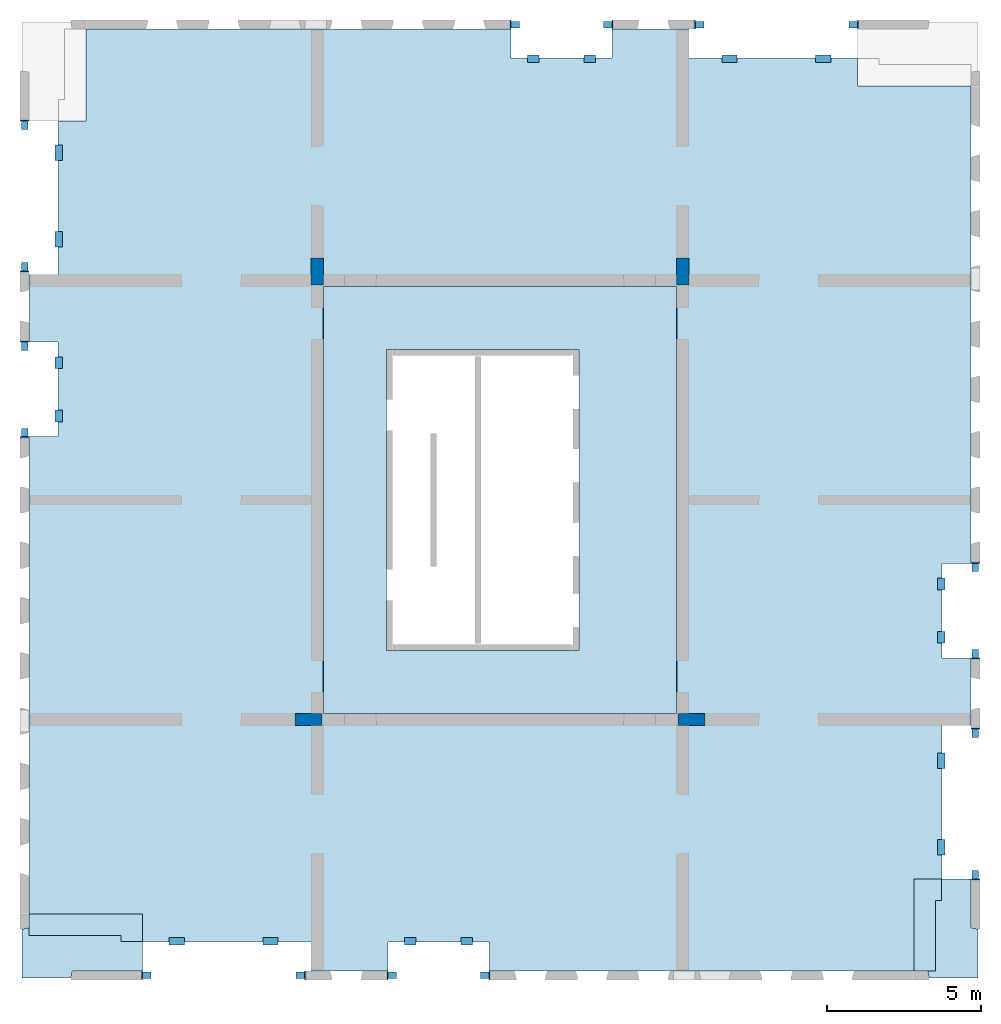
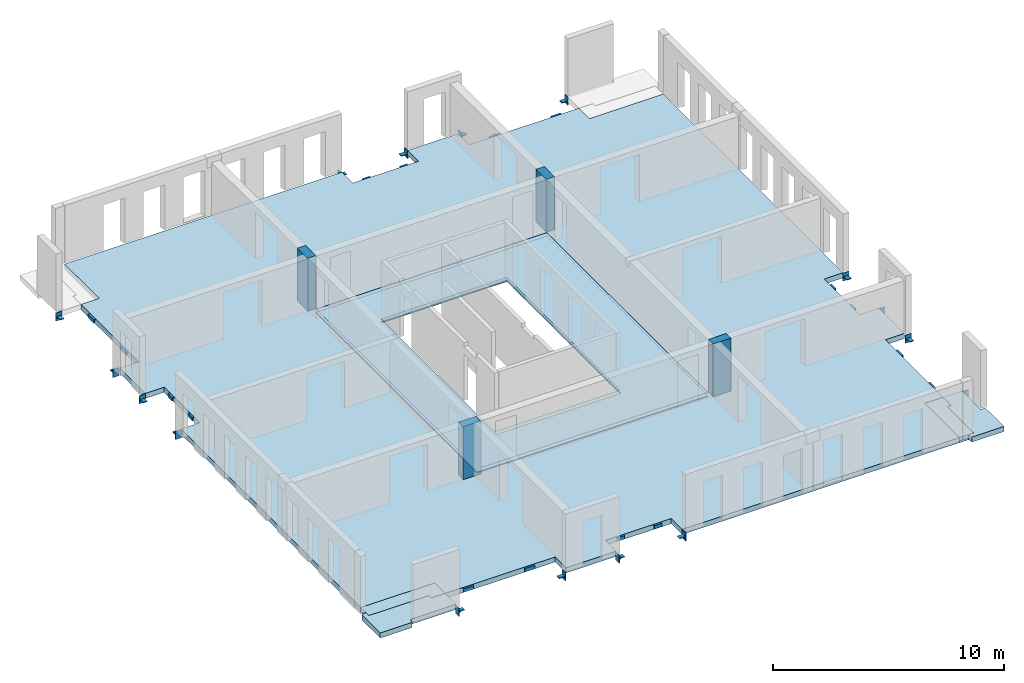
# One storey, part 1 of 4: 32 beams, 7 slabs, 4 columns, 3 openings.
"""IFC2X3 building model written with IfcOpenShell, lengths in millimetres."""

import ifcopenshell
import ifcopenshell.guid

model = None  # the IFC model being written
_history = None  # IfcOwnerHistory: only IFC2X3 demands one
_inside = {}  # id of a spatial element -> (the spatial element, [elements in it])
_under = {}  # id of a project, library or spatial element -> (it, [spatial elements below it])
_declared = {}  # id of a project -> (the project, [libraries it declares])
_typed = {}  # id of a type object -> (the type object, [elements of that type])
_made_of = {}  # id of a material, layer set ... -> (it, [elements and type objects made of it])


def new_model(schema):
    """Start an empty IFC model of exactly this schema.

    Asked for "IFC4X3", IfcOpenShell would pick the latest addendum, in which some entities
    have other attributes; the version numbers below select the first issue.
    IFC2X3 requires an IfcOwnerHistory on every rooted entity: one is made here for all.
    """
    global model, _history
    if schema == "IFC4X3":
        model = ifcopenshell.file(schema_version=(4, 3, 0, 0))
    else:
        model = ifcopenshell.file(schema=schema)
    _inside.clear()
    _under.clear()
    _declared.clear()
    _typed.clear()
    _made_of.clear()
    _history = None
    if model.schema == "IFC2X3":
        org = make("IfcOrganization", Name="unknown")
        user = make(
            "IfcPersonAndOrganization",
            ThePerson=make("IfcPerson", FamilyName="unknown"),
            TheOrganization=org,
        )
        app = make(
            "IfcApplication",
            ApplicationDeveloper=org,
            Version="unknown",
            ApplicationFullName="unknown",
            ApplicationIdentifier="unknown",
        )
        _history = make(
            "IfcOwnerHistory",
            OwningUser=user,
            OwningApplication=app,
            ChangeAction="ADDED",
            CreationDate=0,
        )
    return model


def make(cls, **values):
    """One entity of the class cls with the attributes given. An attribute that is None is left unset."""
    return model.create_entity(
        cls, **{name: value for name, value in values.items() if value is not None}
    )


def entity(cls, *values):
    """Any entity or typed value of the class cls, its attributes in the order of the schema. None: left unset."""
    e = model.create_entity(cls)
    for i, value in enumerate(values):
        if value is not None:
            e[i] = value
    return e


def rooted(cls, **values):
    """An entity with a GlobalId (a new one), such as an element, a storey or a relation."""
    return make(cls, GlobalId=ifcopenshell.guid.new(), OwnerHistory=_history, **values)


def si_unit(unit_type, name, prefix=None):
    """IfcSIUnit, for example si_unit("LENGTHUNIT", "METRE", prefix="MILLI")."""
    return make("IfcSIUnit", UnitType=unit_type, Prefix=prefix, Name=name)


def converted_unit(unit_type, name, factor, base, dimensions=None, offset=None):
    """IfcConversionBasedUnit, such as the inch: factor (a typed value) times the base unit."""
    return make(
        "IfcConversionBasedUnit"
        if offset is None
        else "IfcConversionBasedUnitWithOffset",
        ConversionOffset=offset,
        Dimensions=None
        if dimensions is None
        else entity("IfcDimensionalExponents", *dimensions),
        UnitType=unit_type,
        Name=name,
        ConversionFactor=make(
            "IfcMeasureWithUnit", ValueComponent=factor, UnitComponent=base
        ),
    )


def derived_unit(unit_type, elements):
    """IfcDerivedUnit: a product of units, each with its exponent."""
    return make(
        "IfcDerivedUnit",
        Elements=[
            make("IfcDerivedUnitElement", Unit=unit, Exponent=power)
            for unit, power in elements
        ],
        UnitType=unit_type,
    )


def assignment(units):
    """IfcUnitAssignment: the units of a project."""
    return None if units is None else make("IfcUnitAssignment", Units=units)


def point(xyz):
    """IfcCartesianPoint."""
    return None if xyz is None else make("IfcCartesianPoint", Coordinates=xyz)


def direction(xyz):
    """IfcDirection."""
    return None if xyz is None else make("IfcDirection", DirectionRatios=xyz)


def frame(location, z_axis=None, x_axis=None):
    """IfcAxis2Placement3D, a coordinate frame: its origin and axes. An axis left out is left unset."""
    return make(
        "IfcAxis2Placement3D",
        Location=point(location),
        Axis=direction(z_axis),
        RefDirection=direction(x_axis),
    )


def frame_2d(location, x_axis=None):
    """IfcAxis2Placement2D, a coordinate frame in the plane: its origin and x axis."""
    return make(
        "IfcAxis2Placement2D", Location=point(location), RefDirection=direction(x_axis)
    )


def origin():
    """The frame at (0, 0, 0) with its axes left unset."""
    return frame((0.0, 0.0, 0.0))


def origin_2d_with_axis():
    """The frame at (0, 0) in the plane with the x axis (1, 0) written out."""
    return frame_2d((0.0, 0.0), x_axis=(1.0, 0.0))


def place(relative_to, where):
    """IfcLocalPlacement: puts the frame where relative to a parent placement (None: the world)."""
    return make(
        "IfcLocalPlacement", PlacementRelTo=relative_to, RelativePlacement=where
    )


def context(
    kind, dimensions, precision=None, world=None, true_north=None, identifier=None
):
    """IfcGeometricRepresentationContext, for example the 3D "Model" context."""
    return make(
        "IfcGeometricRepresentationContext",
        ContextIdentifier=identifier,
        ContextType=kind,
        CoordinateSpaceDimension=dimensions,
        Precision=precision,
        WorldCoordinateSystem=world,
        TrueNorth=true_north,
    )


def subcontext(parent, identifier, kind, view, scale=None):
    """IfcGeometricRepresentationSubContext, for example "Body" below "Model"."""
    return make(
        "IfcGeometricRepresentationSubContext",
        ContextIdentifier=identifier,
        ContextType=kind,
        ParentContext=parent,
        TargetScale=scale,
        TargetView=view,
    )


def project(units=None, contexts=None):
    """IfcProject with its units and contexts."""
    return rooted(
        "IfcProject",
        Name="project",
        RepresentationContexts=contexts,
        UnitsInContext=assignment(units),
    )


def spatial(cls, under=None, at=None, **own):
    """A site, building, storey or space (cls), placed at a placement, below another one or the project."""
    s = rooted(cls, ObjectPlacement=at, **own)
    if under is not None:
        _under.setdefault(under.id(), (under, []))[1].append(s)
    return s


def polyline(points):
    """IfcPolyline through the points."""
    return make("IfcPolyline", Points=[point(p) for p in points])


def profile(cls, at=None, kind="AREA", **sizes):
    """A parametric profile (cls). Its sizes go by their IFC names, for example OverallWidth=200.0."""
    return make(cls, ProfileType=kind, Position=at, **sizes)


def rectangle(**sizes):
    """IfcRectangleProfileDef."""
    return profile("IfcRectangleProfileDef", **sizes)


def outline(outer, holes=None, kind="AREA"):
    """IfcArbitraryClosedProfileDef: a profile drawn as a closed curve; with holes, ...WithVoids."""
    if holes is None:
        return make("IfcArbitraryClosedProfileDef", ProfileType=kind, OuterCurve=outer)
    return make(
        "IfcArbitraryProfileDefWithVoids",
        ProfileType=kind,
        OuterCurve=outer,
        InnerCurves=holes,
    )


def extrude(swept, where, along, depth):
    """IfcExtrudedAreaSolid: the profile swept, set in the frame where, extruded along a direction by depth."""
    return make(
        "IfcExtrudedAreaSolid",
        SweptArea=swept,
        Position=where,
        ExtrudedDirection=direction(along),
        Depth=depth,
    )


def shape(context_of_items, identifier, shape_type, items):
    """IfcShapeRepresentation: the items that make up one representation, for example the "Body"."""
    return make(
        "IfcShapeRepresentation",
        ContextOfItems=context_of_items,
        RepresentationIdentifier=identifier,
        RepresentationType=shape_type,
        Items=items,
    )


def source(mapping_origin, context_of_items, identifier, shape_type, items):
    """IfcRepresentationMap: a shape defined once, which mapped items show again and again."""
    return make(
        "IfcRepresentationMap",
        MappingOrigin=mapping_origin,
        MappedRepresentation=shape(context_of_items, identifier, shape_type, items),
    )


def transform(
    local_origin,
    x_axis=None,
    y_axis=None,
    z_axis=None,
    scale=None,
    scale2=None,
    scale3=None,
    uniform=True,
):
    """IfcCartesianTransformationOperator3D, or its non-uniform kind. x_axis, y_axis, z_axis: its Axis1, 2, 3."""
    if uniform:
        return make(
            "IfcCartesianTransformationOperator3D",
            Axis1=direction(x_axis),
            Axis2=direction(y_axis),
            LocalOrigin=point(local_origin),
            Scale=scale,
            Axis3=direction(z_axis),
        )
    return make(
        "IfcCartesianTransformationOperator3DnonUniform",
        Axis1=direction(x_axis),
        Axis2=direction(y_axis),
        LocalOrigin=point(local_origin),
        Scale=scale,
        Axis3=direction(z_axis),
        Scale2=scale2,
        Scale3=scale3,
    )


def mapped(mapping_source, mapping_target):
    """IfcMappedItem: shows the shape of a source again, moved by a transform."""
    return make(
        "IfcMappedItem", MappingSource=mapping_source, MappingTarget=mapping_target
    )


def material(Name=None, Category=None):
    """IfcMaterial."""
    return make("IfcMaterial", Name=Name, Category=Category)


def layer(
    of_material, thickness, ventilated=None, Name=None, Category=None, Priority=None
):
    """IfcMaterialLayer: one layer of a wall or slab, of a material (None: an air gap)."""
    return make(
        "IfcMaterialLayer",
        Material=of_material,
        LayerThickness=thickness,
        IsVentilated=ventilated,
        Name=Name,
        Category=Category,
        Priority=Priority,
    )


def layer_set(layers, Name=None):
    """IfcMaterialLayerSet."""
    return make("IfcMaterialLayerSet", MaterialLayers=layers, LayerSetName=Name)


def layer_usage(for_layer_set, set_direction, sense, offset, extent=None):
    """IfcMaterialLayerSetUsage: how a layer set lies in its element."""
    return make(
        "IfcMaterialLayerSetUsage",
        ForLayerSet=for_layer_set,
        LayerSetDirection=set_direction,
        DirectionSense=sense,
        OffsetFromReferenceLine=offset,
        ReferenceExtent=extent,
    )


def made_of(thing, what):
    """Note that an element or type object is made of a material, layer set ...; save() writes the relation."""
    if what is not None:
        _made_of.setdefault(what.id(), (what, []))[1].append(thing)
    return thing


def type_object(cls, material=None, **own):
    """A type object (cls), such as IfcWallType, which elements share."""
    return made_of(rooted(cls, **own), material)


def type_shapes(of_type, sources):
    """Give a type object the sources (RepresentationMaps) that its elements show as mapped items."""
    of_type.RepresentationMaps = sources


def element(
    cls,
    number,
    at=None,
    inside=None,
    cuts=None,
    type_object=None,
    material=None,
    context=None,
    identifier="Body",
    shape_type=None,
    held_by="IfcProductDefinitionShape",
    body=None,
    shapes=None,
    **own,
):
    """One element of the class cls, such as IfcWall. Its Tag is "e" and its number.

    at: its placement. inside: the storey or other place that contains it. cuts: it is an
    opening in that element (IfcRelVoidsElement). A single representation is given by context,
    identifier, shape_type and body (its items); several are given by shapes. held_by: the class
    of the entity that holds the representations. save() writes the other relations.
    """
    e = rooted(cls, Tag="e%d" % number, ObjectPlacement=at, **own)
    if body is not None:
        shapes = [shape(context, identifier, shape_type, body)]
    if shapes is not None:
        e.Representation = make(held_by, Representations=shapes)
    if inside is not None:
        _inside.setdefault(inside.id(), (inside, []))[1].append(e)
    if cuts is not None:
        rooted(
            "IfcRelVoidsElement", RelatingBuildingElement=cuts, RelatedOpeningElement=e
        )
    if type_object is not None:
        _typed.setdefault(type_object.id(), (type_object, []))[1].append(e)
    return made_of(e, material)


def aggregate(whole, parts):
    """IfcRelAggregates: a whole, such as a stair, and the parts it consists of."""
    return rooted("IfcRelAggregates", RelatingObject=whole, RelatedObjects=parts)


def save(model, path):
    """Write the relations noted so far, then the file.

    IfcRelAggregates (storeys below a building ...), IfcRelContainedInSpatialStructure (elements
    in a storey), IfcRelDefinesByType, IfcRelAssociatesMaterial and IfcRelDeclares: one each for
    every whole, place, type object, material and project.
    """
    for whole, parts in _under.values():
        aggregate(whole, parts)
    for where, things in _inside.values():
        rooted(
            "IfcRelContainedInSpatialStructure",
            RelatedElements=things,
            RelatingStructure=where,
        )
    for kind, things in _typed.values():
        rooted("IfcRelDefinesByType", RelatedObjects=things, RelatingType=kind)
    for what, things in _made_of.values():
        rooted("IfcRelAssociatesMaterial", RelatedObjects=things, RelatingMaterial=what)
    for by, libraries in _declared.values():
        rooted("IfcRelDeclares", RelatingContext=by, RelatedDefinitions=libraries)
    model.write(path)


model = new_model("IFC2X3")

# Units and contexts
model_context = context("Model", 3, precision=0.01, world=origin(), true_north=direction((6.12303176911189e-17, 1.0)))
body_context = subcontext(model_context, "Body", "Model", "MODEL_VIEW")
ifc_project = project(units=[si_unit("LENGTHUNIT", "METRE", prefix="MILLI"), si_unit("AREAUNIT", "SQUARE_METRE"), si_unit("VOLUMEUNIT", "CUBIC_METRE"), converted_unit("PLANEANGLEUNIT", "DEGREE", entity("IfcRatioMeasure", 0.0174532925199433), si_unit("PLANEANGLEUNIT", "RADIAN"), dimensions=[0, 0, 0, 0, 0, 0, 0]), si_unit("MASSUNIT", "GRAM", prefix="KILO"), derived_unit("MASSDENSITYUNIT", [(si_unit("MASSUNIT", "GRAM", prefix="KILO"), 1), (si_unit("LENGTHUNIT", "METRE"), -3)]), si_unit("TIMEUNIT", "SECOND"), si_unit("FREQUENCYUNIT", "HERTZ"), si_unit("THERMODYNAMICTEMPERATUREUNIT", "DEGREE_CELSIUS"), derived_unit("THERMALTRANSMITTANCEUNIT", [(si_unit("MASSUNIT", "GRAM", prefix="KILO"), 1), (si_unit("THERMODYNAMICTEMPERATUREUNIT", "KELVIN"), -1), (si_unit("TIMEUNIT", "SECOND"), -3)]), derived_unit("VOLUMETRICFLOWRATEUNIT", [(si_unit("LENGTHUNIT", "METRE"), 3), (si_unit("TIMEUNIT", "SECOND"), -1)]), si_unit("ELECTRICCURRENTUNIT", "AMPERE"), si_unit("ELECTRICVOLTAGEUNIT", "VOLT"), si_unit("POWERUNIT", "WATT"), si_unit("FORCEUNIT", "NEWTON", prefix="KILO"), si_unit("ILLUMINANCEUNIT", "LUX"), si_unit("LUMINOUSFLUXUNIT", "LUMEN"), si_unit("LUMINOUSINTENSITYUNIT", "CANDELA"), derived_unit("USERDEFINED", [(si_unit("MASSUNIT", "GRAM", prefix="KILO"), -1), (si_unit("LENGTHUNIT", "METRE"), -2), (si_unit("TIMEUNIT", "SECOND"), 3), (si_unit("LUMINOUSFLUXUNIT", "LUMEN"), 1)]), derived_unit("LINEARVELOCITYUNIT", [(si_unit("LENGTHUNIT", "METRE"), 1), (si_unit("TIMEUNIT", "SECOND"), -1)]), si_unit("PRESSUREUNIT", "PASCAL"), derived_unit("USERDEFINED", [(si_unit("LENGTHUNIT", "METRE"), -2), (si_unit("MASSUNIT", "GRAM", prefix="KILO"), 1), (si_unit("TIMEUNIT", "SECOND"), -2)])], contexts=[model_context])

# Site, building, storey
site_placement = place(None, origin())
site = spatial("IfcSite", under=ifc_project, at=site_placement, Name="Default", CompositionType="ELEMENT")
building_placement = place(site_placement, origin())
building = spatial("IfcBuilding", under=site, at=building_placement, Name="niet gebruiken", CompositionType="ELEMENT")
storey_placement = place(building_placement, frame((0.0, 0.0, 94500.0)))
storey = spatial("IfcBuildingStorey", under=building, at=storey_placement, Name="30 dertigste verdieping", CompositionType="ELEMENT", Elevation=94500.0000000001)

# Columns
ifc_material_1 = material(Name="NLRS_f2_beton ihwg")
column_type_1 = type_object("IfcColumnType", Name="400x880", PredefinedType="COLUMN", material=ifc_material_1)
shared_shape_1 = source(origin(), body_context, "Body", "SweptSolid", [
    extrude(rectangle(XDim=879.999999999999, YDim=399.999999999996, at=origin_2d_with_axis()), frame((135800.0, 24940.0, 94410.0), z_axis=(0.0, 0.0, 1.0), x_axis=(0.0, -1.0, 0.0)), (0.0, 0.0, 1.0), 2789.99999999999),
])
type_shapes(column_type_1, [shared_shape_1])
column_1_placement = place(storey_placement, frame((0.0, 0.0, -94500.0)))
element("IfcColumn", 1, at=column_1_placement, inside=storey, type_object=column_type_1, material=ifc_material_1, Name="NLRS_28.11_SCO_TLB_beton kolom ihwg_gen:400x880", ObjectType="400x880", context=body_context, shape_type="MappedRepresentation", body=[
    mapped(shared_shape_1, transform((0.0, 0.0, 0.0), scale=1.0)),
])
column_type_2 = type_object("IfcColumnType", Name="400x880", PredefinedType="COLUMN", material=ifc_material_1)
shared_shape_2 = source(origin(), body_context, "Body", "SweptSolid", [
    extrude(rectangle(XDim=879.999999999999, YDim=399.999999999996, at=origin_2d_with_axis()), frame((147700.0, 24940.0, 94410.0), z_axis=(0.0, 0.0, 1.0), x_axis=(0.0, -1.0, 0.0)), (0.0, 0.0, 1.0), 2789.99999999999),
])
type_shapes(column_type_2, [shared_shape_2])
column_2_placement = place(storey_placement, frame((0.0, 0.0, -94500.0)))
element("IfcColumn", 2, at=column_2_placement, inside=storey, type_object=column_type_2, material=ifc_material_1, Name="NLRS_28.11_SCO_TLB_beton kolom ihwg_gen:400x880", ObjectType="400x880", context=body_context, shape_type="MappedRepresentation", body=[
    mapped(shared_shape_2, transform((0.0, 0.0, 0.0), scale=1.0)),
])
column_type_3 = type_object("IfcColumnType", Name="400x880", PredefinedType="COLUMN", material=ifc_material_1)
shared_shape_3 = source(origin(), body_context, "Body", "SweptSolid", [
    extrude(rectangle(XDim=400.000000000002, YDim=880.000000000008, at=origin_2d_with_axis()), frame((135510.003540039, 10350.0, 94410.0), z_axis=(0.0, 0.0, 1.0), x_axis=(0.0, -1.0, 0.0)), (0.0, 0.0, 1.0), 2789.99999999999),
])
type_shapes(column_type_3, [shared_shape_3])
column_3_placement = place(storey_placement, frame((0.0, 0.0, -94500.0)))
element("IfcColumn", 3, at=column_3_placement, inside=storey, type_object=column_type_3, material=ifc_material_1, Name="NLRS_28.11_SCO_TLB_beton kolom ihwg_gen:400x880", ObjectType="400x880", context=body_context, shape_type="MappedRepresentation", body=[
    mapped(shared_shape_3, transform((0.0, 0.0, 0.0), scale=1.0)),
])
column_type_4 = type_object("IfcColumnType", Name="400x880", PredefinedType="COLUMN", material=ifc_material_1)
shared_shape_4 = source(origin(), body_context, "Body", "SweptSolid", [
    extrude(rectangle(XDim=400.000000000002, YDim=880.000000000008, at=origin_2d_with_axis()), frame((147990.0, 10350.0, 94410.0), z_axis=(0.0, 0.0, 1.0), x_axis=(0.0, -1.0, 0.0)), (0.0, 0.0, 1.0), 2789.99999999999),
])
type_shapes(column_type_4, [shared_shape_4])
column_4_placement = place(storey_placement, frame((0.0, 0.0, -94500.0)))
element("IfcColumn", 4, at=column_4_placement, inside=storey, type_object=column_type_4, material=ifc_material_1, Name="NLRS_28.11_SCO_TLB_beton kolom ihwg_gen:400x880", ObjectType="400x880", context=body_context, shape_type="MappedRepresentation", body=[
    mapped(shared_shape_4, transform((0.0, 0.0, 0.0), scale=1.0)),
])

# Beams
ifc_material_2 = material(Name="NLRS_h2_staal")
beam_type_1 = type_object("IfcBeamType", Name="NLRS_28.11_SF_WPB_stalen schoen 4_gen", PredefinedType="BEAM", material=ifc_material_2)
shared_shape_5 = source(origin(), body_context, "Body", "SweptSolid", [
    extrude(outline(polyline([(-69.4999999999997, -23.0), (8.49999999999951, -23.0), (30.5, -1.0), (30.5000000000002, 47.0), (-69.4999999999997, -23.0)])), frame((-105.0, -109.499999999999, -58.0), z_axis=(1.0, 0.0, 0.0), x_axis=(0.0, -1.0, 0.0)), (0.0, 0.0, 1.0), 35.0),
    extrude(outline(polyline([(-69.4999999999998, -23.0), (8.49999999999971, -23.0), (30.5, -1.0), (30.5000000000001, 47.0), (-69.4999999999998, -23.0)])), frame((70.0, -109.499999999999, -58.0), z_axis=(1.0, 0.0, 0.0), x_axis=(0.0, -1.0, 0.0)), (0.0, 0.0, 1.0), 35.0),
    extrude(rectangle(XDim=300.0, YDim=34.9999999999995, at=origin_2d_with_axis()), frame((0.0, -157.5, -230.0), z_axis=(0.0, 0.0, 1.0), x_axis=(-1.0, 0.0, 0.0)), (0.0, 0.0, 1.0), 420.0),
    extrude(rectangle(XDim=210.000000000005, YDim=274.999999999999, at=origin_2d_with_axis()), frame((0.0, -2.4999999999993, -35.0), z_axis=(0.0, 0.0, 1.0), x_axis=(-1.0, 0.0, 0.0)), (0.0, 0.0, 1.0), 35.0),
])
type_shapes(beam_type_1, [shared_shape_5])
beam_1_placement = place(storey_placement, frame((157230.0, 12500.0, -310.0)))
element("IfcBeam", 5, at=beam_1_placement, inside=storey, type_object=beam_type_1, material=ifc_material_2, Name="NLRS_28.11_SF_WPB_stalen schoen 4_gen:NLRS_28.11_SF_WPB_stalen schoen 4_gen", ObjectType="NLRS_28.11_SF_WPB_stalen schoen 4_gen", context=body_context, shape_type="MappedRepresentation", body=[
    mapped(shared_shape_5, transform((0.0, 0.0, 0.0), scale=1.0)),
])
for number, where, z_axis, x_axis, name in (
    (6, (157230.0, 15300.0, -310.0), (0.0, 0.0, 1.0), (-1.0, 0.0, 0.0), "NLRS_28.11_SF_WPB_stalen schoen 4_gen:NLRS_28.11_SF_WPB_stalen schoen 4_gen"),
    (7, (126270.0, 22500.0, -310.0), (0.0, 0.0, 1.0), (-1.0, 0.0, 0.0), "NLRS_28.11_SF_WPB_stalen schoen 4_gen:NLRS_28.11_SF_WPB_stalen schoen 4_gen"),
):
    element("IfcBeam", number, at=place(storey_placement, frame(where, z_axis=z_axis, x_axis=x_axis)), inside=storey, type_object=beam_type_1, material=ifc_material_2, Name=name, ObjectType="NLRS_28.11_SF_WPB_stalen schoen 4_gen", context=body_context, shape_type="MappedRepresentation", body=[
        mapped(shared_shape_5, transform((0.0, 0.0, 0.0), scale=1.0)),
    ])
beam_2_placement = place(storey_placement, frame((126270.0, 19700.0, -310.0)))
element("IfcBeam", 8, at=beam_2_placement, inside=storey, type_object=beam_type_1, material=ifc_material_2, Name="NLRS_28.11_SF_WPB_stalen schoen 4_gen:NLRS_28.11_SF_WPB_stalen schoen 4_gen", ObjectType="NLRS_28.11_SF_WPB_stalen schoen 4_gen", context=body_context, shape_type="MappedRepresentation", body=[
    mapped(shared_shape_5, transform((0.0, 0.0, 0.0), scale=1.0)),
])
for number, where, z_axis, x_axis, name in (
    (9, (138250.0, 2020.0, -310.0), (0.0, 0.0, 1.0), (0.0, -1.0, 0.0), "NLRS_28.11_SF_WPB_stalen schoen 4_gen:NLRS_28.11_SF_WPB_stalen schoen 4_gen"),
    (10, (141250.0, 2020.0, -310.0), (0.0, 0.0, 1.0), (0.0, 1.0, 0.0), "NLRS_28.11_SF_WPB_stalen schoen 4_gen:NLRS_28.11_SF_WPB_stalen schoen 4_gen"),
    (11, (145250.0, 32980.0, -310.0), (0.0, 0.0, 1.0), (0.0, 1.0, 0.0), "NLRS_28.11_SF_WPB_stalen schoen 4_gen:NLRS_28.11_SF_WPB_stalen schoen 4_gen"),
    (12, (142250.0, 32980.0, -310.0), (0.0, 0.0, 1.0), (0.0, -1.0, 0.0), "NLRS_28.11_SF_WPB_stalen schoen 4_gen:NLRS_28.11_SF_WPB_stalen schoen 4_gen"),
):
    element("IfcBeam", number, at=place(storey_placement, frame(where, z_axis=z_axis, x_axis=x_axis)), inside=storey, type_object=beam_type_1, material=ifc_material_2, Name=name, ObjectType="NLRS_28.11_SF_WPB_stalen schoen 4_gen", context=body_context, shape_type="MappedRepresentation", body=[
        mapped(shared_shape_5, transform((0.0, 0.0, 0.0), scale=1.0)),
    ])
beam_type_2 = type_object("IfcBeamType", Name="NLRS_28.11_SF_WPB_stalen schoen 3_gen", PredefinedType="BEAM", material=ifc_material_2)
shared_shape_6 = source(origin(), body_context, "Body", "SweptSolid", [
    extrude(outline(polyline([(-69.4999999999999, -23.0), (8.49999999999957, -23.0), (30.5000000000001, -1.0), (30.5000000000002, 47.0), (-69.4999999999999, -23.0)])), frame((-105.0, -109.499999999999, -63.0), z_axis=(1.0, 0.0, 0.0), x_axis=(0.0, -1.0, 0.0)), (0.0, 0.0, 1.0), 40.0),
    extrude(outline(polyline([(-69.4999999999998, -23.0), (8.49999999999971, -23.0), (30.5, -1.0), (30.5000000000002, 47.0), (-69.4999999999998, -23.0)])), frame((65.0, -109.499999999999, -63.0), z_axis=(1.0, 0.0, 0.0), x_axis=(0.0, -1.0, 0.0)), (0.0, 0.0, 1.0), 40.0),
    extrude(rectangle(XDim=300.0, YDim=39.9999999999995, at=origin_2d_with_axis()), frame((0.0, -160.0, -230.0), z_axis=(0.0, 0.0, 1.0), x_axis=(-1.0, 0.0, 0.0)), (0.0, 0.0, 1.0), 420.0),
    extrude(rectangle(XDim=210.000000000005, YDim=274.999999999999, at=origin_2d_with_axis()), frame((0.0, -2.49999999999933, -40.0), z_axis=(0.0, 0.0, 1.0), x_axis=(-1.0, 0.0, 0.0)), (0.0, 0.0, 1.0), 39.9999999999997),
])
type_shapes(beam_type_2, [shared_shape_6])
beam_3_placement = place(storey_placement, frame((157230.0, 9900.0, -310.0), z_axis=(0.0, 0.0, 1.0), x_axis=(-1.0, 0.0, 0.0)))
element("IfcBeam", 13, at=beam_3_placement, inside=storey, type_object=beam_type_2, material=ifc_material_2, Name="NLRS_28.11_SF_WPB_stalen schoen 3_gen:NLRS_28.11_SF_WPB_stalen schoen 3_gen", ObjectType="NLRS_28.11_SF_WPB_stalen schoen 3_gen", context=body_context, shape_type="MappedRepresentation", body=[
    mapped(shared_shape_6, transform((0.0, 0.0, 0.0), scale=1.0)),
])
for number, where, name in (
    (14, (157230.0, 5300.0, -310.0), "NLRS_28.11_SF_WPB_stalen schoen 3_gen:NLRS_28.11_SF_WPB_stalen schoen 3_gen"),
    (15, (126270.0, 25100.0, -310.0), "NLRS_28.11_SF_WPB_stalen schoen 3_gen:NLRS_28.11_SF_WPB_stalen schoen 3_gen"),
):
    element("IfcBeam", number, at=place(storey_placement, frame(where)), inside=storey, type_object=beam_type_2, material=ifc_material_2, Name=name, ObjectType="NLRS_28.11_SF_WPB_stalen schoen 3_gen", context=body_context, shape_type="MappedRepresentation", body=[
        mapped(shared_shape_6, transform((0.0, 0.0, 0.0), scale=1.0)),
    ])
for number, where, z_axis, x_axis, name in (
    (16, (126270.0, 29700.0, -310.0), (0.0, 0.0, 1.0), (-1.0, 0.0, 0.0), "NLRS_28.11_SF_WPB_stalen schoen 3_gen:NLRS_28.11_SF_WPB_stalen schoen 3_gen"),
    (17, (135250.0, 2020.0, -310.0), (0.0, 0.0, 1.0), (0.0, 1.0, 0.0), "NLRS_28.11_SF_WPB_stalen schoen 3_gen:NLRS_28.11_SF_WPB_stalen schoen 3_gen"),
    (18, (130250.0, 2020.0, -310.0), (0.0, 0.0, 1.0), (0.0, -1.0, 0.0), "NLRS_28.11_SF_WPB_stalen schoen 3_gen:NLRS_28.11_SF_WPB_stalen schoen 3_gen"),
    (19, (148250.0, 32980.0, -310.0), (0.0, 0.0, 1.0), (0.0, -1.0, 0.0), "NLRS_28.11_SF_WPB_stalen schoen 3_gen:NLRS_28.11_SF_WPB_stalen schoen 3_gen"),
    (20, (153250.0, 32980.0, -310.0), (0.0, 0.0, 1.0), (0.0, 1.0, 0.0), "NLRS_28.11_SF_WPB_stalen schoen 3_gen:NLRS_28.11_SF_WPB_stalen schoen 3_gen"),
):
    element("IfcBeam", number, at=place(storey_placement, frame(where, z_axis=z_axis, x_axis=x_axis)), inside=storey, type_object=beam_type_2, material=ifc_material_2, Name=name, ObjectType="NLRS_28.11_SF_WPB_stalen schoen 3_gen", context=body_context, shape_type="MappedRepresentation", body=[
        mapped(shared_shape_6, transform((0.0, 0.0, 0.0), scale=1.0)),
    ])
beam_type_3 = type_object("IfcBeamType", Name="NLRS_28.11_SF_WPB_stalen handje 7 lang 375_gen:NLRS_28.11_SF_WPB_stalen handje 7_gen", PredefinedType="BEAM")
beam_4_placement = place(storey_placement, frame((156235.125015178, 9255.24886461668, -93.0), z_axis=(0.0, 0.0, 1.0), x_axis=(0.0, -1.0, 0.0)))
element("IfcBeam", 21, at=beam_4_placement, inside=storey, type_object=beam_type_3, material=ifc_material_2, Name="NLRS_28.11_SF_WPB_stalen handje 7 lang 375_gen:NLRS_28.11_SF_WPB_stalen handje 7_gen", ObjectType="NLRS_28.11_SF_WPB_stalen handje 7 lang 375_gen:NLRS_28.11_SF_WPB_stalen handje 7_gen", context=body_context, shape_type="SweptSolid", body=[
    extrude(outline(polyline([(-70.6666666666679, -153.33333333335), (-40.6666666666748, -153.33333333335), (-40.6666666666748, 61.6666666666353), (111.333333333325, 61.6666666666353), (111.333333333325, 91.6666666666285), (-70.6666666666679, 91.6666666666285), (-70.6666666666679, -153.33333333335)])), frame((0.0, -91.6666666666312, -70.6666666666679), z_axis=(1.0, 0.0, 0.0), x_axis=(0.0, 0.0, -1.0)), (0.0, 0.0, 1.0), 500.000000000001),
])
beam_5_placement = place(storey_placement, frame((156235.125015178, 6445.24582437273, -93.0), z_axis=(0.0, 0.0, 1.0), x_axis=(0.0, -1.0, 0.0)))
element("IfcBeam", 22, at=beam_5_placement, inside=storey, type_object=beam_type_3, material=ifc_material_2, Name="NLRS_28.11_SF_WPB_stalen handje 7 lang 375_gen:NLRS_28.11_SF_WPB_stalen handje 7_gen", ObjectType="NLRS_28.11_SF_WPB_stalen handje 7 lang 375_gen:NLRS_28.11_SF_WPB_stalen handje 7_gen", context=body_context, shape_type="SweptSolid", body=[
    extrude(outline(polyline([(-70.6666666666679, -153.33333333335), (-40.6666666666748, -153.33333333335), (-40.6666666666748, 61.6666666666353), (111.333333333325, 61.6666666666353), (111.333333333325, 91.6666666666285), (-70.6666666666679, 91.6666666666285), (-70.6666666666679, -153.33333333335)])), frame((0.0, -91.6666666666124, -70.6666666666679), z_axis=(1.0, 0.0, 0.0), x_axis=(0.0, 0.0, -1.0)), (0.0, 0.0, 1.0), 500.000000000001),
])
beam_6_placement = place(storey_placement, frame((127264.874984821, 25744.7511353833, -93.0), z_axis=(0.0, 0.0, 1.0), x_axis=(0.0, 1.0, 0.0)))
element("IfcBeam", 23, at=beam_6_placement, inside=storey, type_object=beam_type_3, material=ifc_material_2, Name="NLRS_28.11_SF_WPB_stalen handje 7 lang 375_gen:NLRS_28.11_SF_WPB_stalen handje 7_gen", ObjectType="NLRS_28.11_SF_WPB_stalen handje 7 lang 375_gen:NLRS_28.11_SF_WPB_stalen handje 7_gen", context=body_context, shape_type="SweptSolid", body=[
    extrude(outline(polyline([(-70.6666666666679, -153.333333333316), (-40.6666666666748, -153.333333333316), (-40.6666666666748, 61.6666666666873), (111.333333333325, 61.66666666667), (111.333333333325, 91.6666666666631), (-70.6666666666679, 91.6666666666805), (-70.6666666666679, -153.333333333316)])), frame((0.0, -91.6666666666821, -70.6666666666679), z_axis=(1.0, 0.0, 0.0), x_axis=(0.0, 0.0, -1.0)), (0.0, 0.0, 1.0), 500.000000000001),
])
beam_7_placement = place(storey_placement, frame((127264.874984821, 28554.7541756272, -93.0), z_axis=(0.0, 0.0, 1.0), x_axis=(0.0, 1.0, 0.0)))
element("IfcBeam", 24, at=beam_7_placement, inside=storey, type_object=beam_type_3, material=ifc_material_2, Name="NLRS_28.11_SF_WPB_stalen handje 7 lang 375_gen:NLRS_28.11_SF_WPB_stalen handje 7_gen", ObjectType="NLRS_28.11_SF_WPB_stalen handje 7 lang 375_gen:NLRS_28.11_SF_WPB_stalen handje 7_gen", context=body_context, shape_type="SweptSolid", body=[
    extrude(outline(polyline([(-70.6666666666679, -153.333333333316), (-40.6666666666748, -153.333333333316), (-40.6666666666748, 61.6666666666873), (111.333333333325, 61.66666666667), (111.333333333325, 91.6666666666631), (-70.6666666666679, 91.6666666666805), (-70.6666666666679, -153.333333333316)])), frame((0.0, -91.66666666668, -70.6666666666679), z_axis=(1.0, 0.0, 0.0), x_axis=(0.0, 0.0, -1.0)), (0.0, 0.0, 1.0), 500.000000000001),
])
for number, where, z_axis, x_axis, name in (
    (25, (140862.631597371, 3015.23611279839, -93.0), (0.0, 0.0, 1.0), (-1.0, 0.0, 0.0), "NLRS_28.11_SF_WPB_stalen handje 7 lang 375_gen:NLRS_28.11_SF_WPB_stalen handje 7_gen"),
    (26, (139012.628555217, 3015.23611279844, -93.0), (0.0, 0.0, 1.0), (-1.0, 0.0, 0.0), "NLRS_28.11_SF_WPB_stalen handje 7 lang 375_gen:NLRS_28.11_SF_WPB_stalen handje 7_gen"),
):
    element("IfcBeam", number, at=place(storey_placement, frame(where, z_axis=z_axis, x_axis=x_axis)), inside=storey, type_object=beam_type_3, material=ifc_material_2, Name=name, ObjectType="NLRS_28.11_SF_WPB_stalen handje 7 lang 375_gen:NLRS_28.11_SF_WPB_stalen handje 7_gen", context=body_context, shape_type="SweptSolid", body=[
        extrude(outline(polyline([(-70.6666666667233, -153.333333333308), (-40.6666666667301, -153.333333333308), (-40.6666666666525, 61.6666666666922), (111.333333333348, 61.6666666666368), (111.333333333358, 91.6666666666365), (-70.6666666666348, 91.6666666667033), (-70.6666666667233, -153.333333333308)])), frame((0.0, -91.6666666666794, -70.6666666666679), z_axis=(1.0, 0.0, 0.0), x_axis=(0.0, 0.0, -1.0)), (0.0, 0.0, 1.0), 375.000000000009),
    ])
for number, where, z_axis, x_axis, name in (
    (27, (134525.131597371, 3015.23611279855, -93.0), (0.0, 0.0, 1.0), (-1.0, 0.0, 0.0), "NLRS_28.11_SF_WPB_stalen handje 7 lang 375_gen:NLRS_28.11_SF_WPB_stalen handje 7_gen"),
    (28, (131475.128555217, 3015.23611279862, -93.0), (0.0, 0.0, 1.0), (-1.0, 0.0, 0.0), "NLRS_28.11_SF_WPB_stalen handje 7 lang 375_gen:NLRS_28.11_SF_WPB_stalen handje 7_gen"),
):
    element("IfcBeam", number, at=place(storey_placement, frame(where, z_axis=z_axis, x_axis=x_axis)), inside=storey, type_object=beam_type_3, material=ifc_material_2, Name=name, ObjectType="NLRS_28.11_SF_WPB_stalen handje 7 lang 375_gen:NLRS_28.11_SF_WPB_stalen handje 7_gen", context=body_context, shape_type="SweptSolid", body=[
        extrude(outline(polyline([(-70.6666666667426, -153.333333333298), (-40.6666666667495, -153.333333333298), (-40.6666666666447, 61.6666666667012), (111.333333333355, 61.6666666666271), (111.33333333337, 91.6666666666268), (-70.6666666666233, 91.666666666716), (-70.6666666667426, -153.333333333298)])), frame((0.0, -91.6666666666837, -70.6666666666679), z_axis=(1.0, 0.0, 0.0), x_axis=(0.0, 0.0, -1.0)), (0.0, 0.0, 1.0), 500.000000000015),
    ])
for number, where, name in (
    (29, (142637.368402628, 31984.7638872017, -93.0), "NLRS_28.11_SF_WPB_stalen handje 7 lang 375_gen:NLRS_28.11_SF_WPB_stalen handje 7_gen"),
    (30, (144487.371444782, 31984.7638872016, -93.0), "NLRS_28.11_SF_WPB_stalen handje 7 lang 375_gen:NLRS_28.11_SF_WPB_stalen handje 7_gen"),
):
    element("IfcBeam", number, at=place(storey_placement, frame(where)), inside=storey, type_object=beam_type_3, material=ifc_material_2, Name=name, ObjectType="NLRS_28.11_SF_WPB_stalen handje 7 lang 375_gen:NLRS_28.11_SF_WPB_stalen handje 7_gen", context=body_context, shape_type="SweptSolid", body=[
        extrude(outline(polyline([(-70.6666666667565, -153.333333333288), (-40.6666666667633, -153.333333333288), (-40.6666666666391, 61.6666666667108), (111.333333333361, 61.666666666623), (111.333333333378, 91.6666666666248), (-70.666666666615, 91.6666666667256), (-70.6666666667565, -153.333333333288)])), frame((0.0, -91.6666666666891, -70.6666666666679), z_axis=(1.0, 0.0, 0.0), x_axis=(0.0, 0.0, -1.0)), (0.0, 0.0, 1.0), 375.000000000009),
    ])
for number, where, name in (
    (31, (148974.868402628, 31984.7638872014, -93.0), "NLRS_28.11_SF_WPB_stalen handje 7 lang 375_gen:NLRS_28.11_SF_WPB_stalen handje 7_gen"),
    (32, (152024.871444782, 31984.7638872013, -93.0), "NLRS_28.11_SF_WPB_stalen handje 7 lang 375_gen:NLRS_28.11_SF_WPB_stalen handje 7_gen"),
):
    element("IfcBeam", number, at=place(storey_placement, frame(where)), inside=storey, type_object=beam_type_3, material=ifc_material_2, Name=name, ObjectType="NLRS_28.11_SF_WPB_stalen handje 7 lang 375_gen:NLRS_28.11_SF_WPB_stalen handje 7_gen", context=body_context, shape_type="SweptSolid", body=[
        extrude(outline(polyline([(-70.6666666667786, -153.333333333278), (-40.6666666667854, -153.333333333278), (-40.6666666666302, 61.6666666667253), (111.33333333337, 61.6666666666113), (111.333333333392, 91.6666666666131), (-70.6666666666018, 91.6666666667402), (-70.6666666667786, -153.333333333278)])), frame((0.0, -91.6666666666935, -70.6666666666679), z_axis=(1.0, 0.0, 0.0), x_axis=(0.0, 0.0, -1.0)), (0.0, 0.0, 1.0), 500.000000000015),
    ])
beam_8_placement = place(storey_placement, frame((156235.0, 14952.5097115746, -93.0), z_axis=(0.0, 0.0, 1.0), x_axis=(0.0, -1.0, 0.0)))
element("IfcBeam", 33, at=beam_8_placement, inside=storey, type_object=beam_type_3, material=ifc_material_2, Name="NLRS_28.11_SF_WPB_stalen handje 7 lang 375_gen:NLRS_28.11_SF_WPB_stalen handje 7_gen", ObjectType="NLRS_28.11_SF_WPB_stalen handje 7 lang 375_gen:NLRS_28.11_SF_WPB_stalen handje 7_gen", context=body_context, shape_type="SweptSolid", body=[
    extrude(outline(polyline([(-70.6666666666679, -153.333333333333), (-40.6666666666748, -153.333333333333), (-40.6666666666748, 61.66666666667), (111.333333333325, 61.66666666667), (111.333333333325, 91.6666666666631), (-70.6666666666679, 91.6666666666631), (-70.6666666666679, -153.333333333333)])), frame((0.0, -91.6666666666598, -70.6666666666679), z_axis=(1.0, 0.0, 0.0), x_axis=(0.0, 0.0, -1.0)), (0.0, 0.0, 1.0), 375.000000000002),
])
beam_9_placement = place(storey_placement, frame((156235.0, 13222.5097115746, -93.0), z_axis=(0.0, 0.0, 1.0), x_axis=(0.0, -1.0, 0.0)))
element("IfcBeam", 34, at=beam_9_placement, inside=storey, type_object=beam_type_3, material=ifc_material_2, Name="NLRS_28.11_SF_WPB_stalen handje 7 lang 375_gen:NLRS_28.11_SF_WPB_stalen handje 7_gen", ObjectType="NLRS_28.11_SF_WPB_stalen handje 7 lang 375_gen:NLRS_28.11_SF_WPB_stalen handje 7_gen", context=body_context, shape_type="SweptSolid", body=[
    extrude(outline(polyline([(-70.6666666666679, -153.333333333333), (-40.6666666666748, -153.333333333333), (-40.6666666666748, 61.66666666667), (111.333333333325, 61.66666666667), (111.333333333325, 91.6666666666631), (-70.6666666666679, 91.6666666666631), (-70.6666666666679, -153.333333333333)])), frame((0.0, -91.6666666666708, -70.6666666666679), z_axis=(1.0, 0.0, 0.0), x_axis=(0.0, 0.0, -1.0)), (0.0, 0.0, 1.0), 375.000000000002),
])
beam_10_placement = place(storey_placement, frame((127265.0, 20047.4902884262, -93.0), z_axis=(0.0, 0.0, 1.0), x_axis=(0.0, 1.0, 0.0)))
element("IfcBeam", 35, at=beam_10_placement, inside=storey, type_object=beam_type_3, material=ifc_material_2, Name="NLRS_28.11_SF_WPB_stalen handje 7 lang 375_gen:NLRS_28.11_SF_WPB_stalen handje 7_gen", ObjectType="NLRS_28.11_SF_WPB_stalen handje 7 lang 375_gen:NLRS_28.11_SF_WPB_stalen handje 7_gen", context=body_context, shape_type="SweptSolid", body=[
    extrude(outline(polyline([(-70.6666666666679, -153.333333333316), (-40.6666666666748, -153.333333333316), (-40.6666666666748, 61.6666666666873), (111.333333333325, 61.66666666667), (111.333333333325, 91.6666666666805), (-70.6666666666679, 91.6666666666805), (-70.6666666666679, -153.333333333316)])), frame((0.0, -91.6666666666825, -70.6666666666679), z_axis=(1.0, 0.0, 0.0), x_axis=(0.0, 0.0, -1.0)), (0.0, 0.0, 1.0), 375.000000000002),
])
beam_11_placement = place(storey_placement, frame((127265.0, 21777.4902884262, -93.0), z_axis=(0.0, 0.0, 1.0), x_axis=(0.0, 1.0, 0.0)))
element("IfcBeam", 36, at=beam_11_placement, inside=storey, type_object=beam_type_3, material=ifc_material_2, Name="NLRS_28.11_SF_WPB_stalen handje 7 lang 375_gen:NLRS_28.11_SF_WPB_stalen handje 7_gen", ObjectType="NLRS_28.11_SF_WPB_stalen handje 7 lang 375_gen:NLRS_28.11_SF_WPB_stalen handje 7_gen", context=body_context, shape_type="SweptSolid", body=[
    extrude(outline(polyline([(-70.6666666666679, -153.33333333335), (-40.6666666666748, -153.33333333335), (-40.6666666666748, 61.6666666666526), (111.333333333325, 61.6666666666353), (111.333333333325, 91.6666666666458), (-70.6666666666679, 91.6666666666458), (-70.6666666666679, -153.33333333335)])), frame((0.0, -91.6666666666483, -70.6666666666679), z_axis=(1.0, 0.0, 0.0), x_axis=(0.0, 0.0, -1.0)), (0.0, 0.0, 1.0), 375.000000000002),
])

# Slabs
ifc_material_3 = material(Name="NLRS_f2_beton prefab")
ifc_layer_1 = layer(ifc_material_3, 270.0)
ifc_layer_set_1 = layer_set([ifc_layer_1], Name="Floor:NLRS_23.22_FL_beton prefab d=270 3D element_gen")
ifc_layer_usage_1 = layer_usage(ifc_layer_set_1, "AXIS3", "POSITIVE", 0.0)
slab_1_placement = place(storey_placement, origin())
element("IfcSlab", 37, at=slab_1_placement, inside=storey, material=ifc_layer_usage_1, Name="Floor:NLRS_23.22_FL_beton prefab d=270 3D element_gen", ObjectType="Floor:NLRS_23.22_FL_beton prefab d=270 3D element_gen", PredefinedType="LANDING", context=body_context, shape_type="SweptSolid", body=[
    extrude(outline(polyline([(-1034.47139498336, -1100.52860501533), (1955.52860501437, -1100.52860501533), (1955.52860501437, 749.471394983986), (370.152429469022, 749.471394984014), (322.675940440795, 982.471394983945), (-1267.47139498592, 982.471394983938), (-1267.47139498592, -607.675940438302), (-1034.47139498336, -655.152429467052), (-1034.47139498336, -1100.52860501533)])), frame((156330.528605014, 3204.47139498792, -90.0), z_axis=(0.0, 0.0, -1.0), x_axis=(0.0, 1.0, 0.0)), (0.0, 0.0, 1.0), 270.000000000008),
])
ifc_layer_2 = layer(ifc_material_1, 170.0)
ifc_layer_set_2 = layer_set([ifc_layer_2], Name="Floor:NLRS_23.21_FL_beton ihwg d=170_gen")
ifc_layer_usage_2 = layer_usage(ifc_layer_set_2, "AXIS3", "POSITIVE", 0.0)
slab_2_placement = place(storey_placement, origin())
element("IfcSlab", 38, at=slab_2_placement, inside=storey, material=ifc_layer_usage_2, Name="Floor:NLRS_23.21_FL_beton ihwg d=170_gen", ObjectType="Floor:NLRS_23.21_FL_beton ihwg d=170_gen", PredefinedType="FLOOR", context=body_context, shape_type="SweptSolid", body=[
    extrude(outline(polyline([(-1760.0, -533.33333333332), (1230.0, -533.33333333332), (1230.0, 366.666666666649), (530.0, 366.666666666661), (530.0, 166.666666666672), (-1760.0, 166.666666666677), (-1760.0, -533.33333333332)])), frame((155763.333333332, 3930.0, -90.0), z_axis=(0.0, 0.0, -1.0), x_axis=(0.0, 1.0, 0.0)), (0.0, 0.0, 1.0), 169.999999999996),
])
ifc_layer_usage_3 = layer_usage(ifc_layer_set_1, "AXIS3", "POSITIVE", 0.0)
slab_3_placement = place(storey_placement, origin())
element("IfcSlab", 39, at=slab_3_placement, inside=storey, material=ifc_layer_usage_3, Name="Floor:NLRS_23.22_FL_beton prefab d=270 3D element_gen", ObjectType="Floor:NLRS_23.22_FL_beton prefab d=270 3D element_gen", PredefinedType="LANDING", context=body_context, shape_type="SweptSolid", body=[
    extrude(outline(polyline([(-982.471394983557, -1442.47139498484), (607.67594043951, -1442.47139498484), (655.152429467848, -1209.47139498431), (1100.52860501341, -1209.47139498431), (1100.52860501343, 2480.5286050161), (-749.471394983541, 2480.5286050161), (-749.471394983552, 195.15242946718), (-982.47139498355, 147.675940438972), (-982.471394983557, -1442.47139498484)])), frame((127629.471394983, 2919.47139499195, -90.0), z_axis=(0.0, 0.0, -1.0), x_axis=(0.0, 1.0, 0.0)), (0.0, 0.0, 1.0), 270.000000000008),
])
ifc_layer_usage_4 = layer_usage(ifc_layer_set_2, "AXIS3", "POSITIVE", 0.0)
slab_4_placement = place(storey_placement, origin())
element("IfcSlab", 40, at=slab_4_placement, inside=storey, material=ifc_layer_usage_4, Name="Floor:NLRS_23.21_FL_beton ihwg d=170_gen", ObjectType="Floor:NLRS_23.21_FL_beton ihwg d=170_gen", PredefinedType="FLOOR", context=body_context, shape_type="SweptSolid", body=[
    extrude(outline(polyline([(-166.666666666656, -2226.66666666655), (533.333333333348, -2226.66666666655), (533.333333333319, 1463.33333333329), (-366.666666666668, 1463.33333333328), (-366.666666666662, 763.333333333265), (-166.666666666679, 763.333333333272), (-166.666666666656, -2226.66666666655)])), frame((128646.666666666, 3486.66666667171, -90.0), z_axis=(0.0, 0.0, -1.0), x_axis=(0.0, 1.0, 0.0)), (0.0, 0.0, 1.0), 169.999999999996),
])

# Slab, opening
ifc_layer_3 = layer(ifc_material_1, 230.0)
ifc_layer_set_3 = layer_set([ifc_layer_3], Name="Floor:NLRS_23.21_FL_vloer=230_gen")
ifc_layer_usage_5 = layer_usage(ifc_layer_set_3, "AXIS3", "POSITIVE", 0.0)
slab_5_placement = place(storey_placement, frame((136000.0, 10549.7638872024, -320.0)))
slab_5 = element("IfcSlab", 41, at=slab_5_placement, inside=storey, material=ifc_layer_usage_5, Name="Floor:NLRS_23.21_FL_vloer=230_gen", ObjectType="Floor:NLRS_23.21_FL_vloer=230_gen", PredefinedType="FLOOR", context=body_context, shape_type="SweptSolid", body=[
    extrude(rectangle(XDim=13900.2361127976, YDim=11500.0, at=frame_2d((0.0, 0.0), x_axis=(0.0, -1.0))), frame((5750.0, 6950.11805639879, 230.0), z_axis=(0.0, 0.0, -1.0), x_axis=(-1.0, 0.0, 0.0)), (0.0, 0.0, 1.0), 230.0),
])
opening_1_placement = place(slab_5_placement, frame((5190.0, 6950.23611279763, 230.0)))
element("IfcOpeningElement", 42, at=opening_1_placement, cuts=slab_5, Name="Floor:NLRS_23.21_FL_vloer=230_gen:2", ObjectType="Opening", context=body_context, shape_type="SweptSolid", body=[
    extrude(rectangle(XDim=9800.0, YDim=6279.99999999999, at=origin_2d_with_axis()), frame((0.0, 0.0, 0.0), z_axis=(0.0, 0.0, -1.0), x_axis=(0.0, -1.0, 0.0)), (0.0, 0.0, 1.0), 230.0),
])

ifc_layer_4 = layer(ifc_material_1, 170.0)
ifc_layer_5 = layer(ifc_material_3, 100.0)
ifc_layer_set_4 = layer_set([ifc_layer_4, ifc_layer_5], Name="Floor:NLRS_23.21_FL_breedplaat d=100/270_gen")
ifc_layer_usage_6 = layer_usage(ifc_layer_set_4, "AXIS3", "POSITIVE", 0.0)
slab_6_placement = place(storey_placement, frame((126420.0, 2170.0, -360.0)))
slab_6 = element("IfcSlab", 43, at=slab_6_placement, inside=storey, material=ifc_layer_usage_6, Name="Floor:NLRS_23.21_FL_breedplaat d=100/270_gen", ObjectType="Floor:NLRS_23.21_FL_breedplaat d=100/270_gen", PredefinedType="FLOOR", context=body_context, shape_type="SweptSolid", body=[
    extrude(outline(polyline([(-360.0, 15330.0), (-360.0, 14385.0), (-3640.0, 14385.0), (-3640.0, 15330.0), (-6150.0, 15330.0), (-6150.0, 14385.0), (-11640.0, 14385.0), (-11640.0, 13480.0), (-15330.0, 13480.0), (-15330.0, -2060.0), (-14385.0, -2060.0), (-14385.0, -5140.0), (-15330.0, -5140.0), (-15330.0, -7350.0), (-14385.0, -7350.0), (-14385.0, -12340.0), (-13480.0, -12340.0), (-13480.0, -15330.0), (360.0, -15330.0), (360.0, -14385.0), (3640.0, -14385.0), (3640.0, -15330.0), (6150.0, -15330.0), (6150.0, -14385.0), (11640.0, -14385.0), (11640.0, -13480.0), (15330.0, -13480.0), (15330.0, 2060.0), (14385.0, 2060.0), (14385.0, 5140.0), (15330.0, 5140.0), (15330.0, 7350.0), (14385.0, 7350.0), (14385.0, 12340.0), (13480.0, 12340.0), (13480.0, 15330.0), (-360.0, 15330.0)])), frame((15330.0, 15330.0, 270.0), z_axis=(0.0, 0.0, -1.0), x_axis=(-1.0, 0.0, 0.0)), (0.0, 0.0, 1.0), 270.000000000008),
])
opening_2_placement = place(slab_6_placement, frame((15330.0, 15330.0, 270.0)))
element("IfcOpeningElement", 44, at=opening_2_placement, cuts=slab_6, Name="Floor:NLRS_23.21_FL_breedplaat d=100/270_gen:2", ObjectType="Opening", context=body_context, shape_type="SweptSolid", body=[
    extrude(rectangle(XDim=13899.9999999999, YDim=11500.0, at=origin_2d_with_axis()), frame((0.0, 0.0, 0.0), z_axis=(0.0, 0.0, -1.0), x_axis=(0.0, -1.0, 0.0)), (0.0, 0.0, 1.0), 270.000000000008),
])

ifc_layer_6 = layer(ifc_material_3, 60.0)
ifc_layer_set_5 = layer_set([ifc_layer_6], Name="Floor:NLRS_23.21_FL_breedplaat d=60_gen")
ifc_layer_usage_7 = layer_usage(ifc_layer_set_5, "AXIS3", "POSITIVE", 0.0)
slab_7_placement = place(storey_placement, frame((135990.0, 10540.0, -320.0)))
slab_7 = element("IfcSlab", 45, at=slab_7_placement, inside=storey, material=ifc_layer_usage_7, Name="Floor:NLRS_23.21_FL_breedplaat d=60_gen", ObjectType="Floor:NLRS_23.21_FL_breedplaat d=60_gen", PredefinedType="FLOOR", context=body_context, shape_type="SweptSolid", body=[
    extrude(rectangle(XDim=13919.9999999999, YDim=11520.0, at=frame_2d((0.0, 0.0), x_axis=(0.0, -1.0))), frame((5760.0, 6960.0, 60.0), z_axis=(0.0, 0.0, -1.0), x_axis=(-1.0, 0.0, 0.0)), (0.0, 0.0, 1.0), 60.0000000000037),
])
opening_3_placement = place(slab_7_placement, frame((5200.0, 6960.0, 60.0)))
element("IfcOpeningElement", 46, at=opening_3_placement, cuts=slab_7, Name="Floor:NLRS_23.21_FL_breedplaat d=60_gen:2", ObjectType="Opening", context=body_context, shape_type="SweptSolid", body=[
    extrude(rectangle(XDim=9820.0, YDim=6299.99999999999, at=origin_2d_with_axis()), frame((0.0, 0.0, 0.0), z_axis=(0.0, 0.0, -1.0), x_axis=(0.0, -1.0, 0.0)), (0.0, 0.0, 1.0), 60.0000000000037),
])

save(model, "model.ifc")
